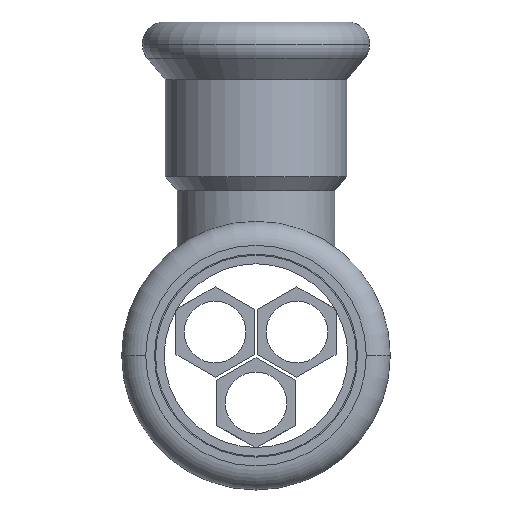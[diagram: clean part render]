
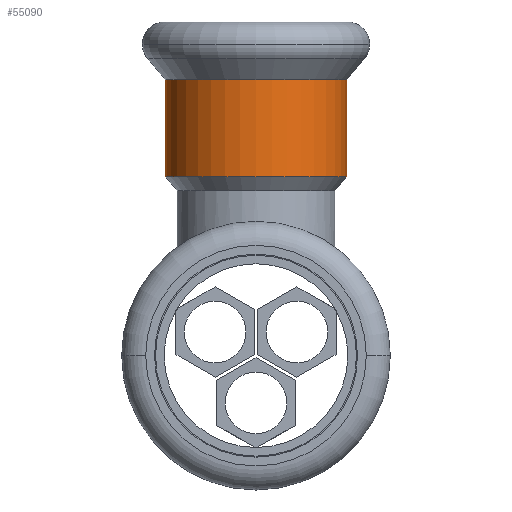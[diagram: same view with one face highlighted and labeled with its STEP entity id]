
A CAD part, front view. The second image highlights one B-rep face of the part: STEP entity #55090.
In plain terms, the highlighted cylindrical face has radius 12.65 mm (diameter 25.3 mm), a partial arc.
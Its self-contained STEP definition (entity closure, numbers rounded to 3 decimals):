
#1380=CARTESIAN_POINT('',(-306.641,56.893,0.));
#1390=VERTEX_POINT('',#1380);
#1570=CARTESIAN_POINT('',(-331.941,56.893,
0.));
#1580=VERTEX_POINT('',#1570);
#1610=CARTESIAN_POINT('',(-319.291,56.893,0.));
#1620=DIRECTION('',(0.,1.,0.));
#1630=DIRECTION('',(-1.,0.,0.));
#1640=AXIS2_PLACEMENT_3D('',#1610,#1620,#1630);
#1650=CIRCLE('',#1640,12.65);
#1710=CARTESIAN_POINT('',(-319.291,50.141,0.));
#1720=DIRECTION('',(0.,-1.,0.));
#1730=DIRECTION('',(-1.,0.,0.));
#1740=AXIS2_PLACEMENT_3D('',#1710,#1720,#1730);
#1750=CYLINDRICAL_SURFACE('',#1740,12.65);
#1760=CARTESIAN_POINT('',(-306.641,50.141,
0.));
#1770=DIRECTION('',(0.,-1.,0.));
#1780=VECTOR('',#1770,1.);
#1790=LINE('',#1760,#1780);
#1800=CARTESIAN_POINT('',(-306.641,43.401,
0.));
#1810=VERTEX_POINT('',#1800);
#1820=EDGE_CURVE('',#1390,#1810,#1790,.T.);
#1850=CARTESIAN_POINT('',(-331.941,50.141,0.));
#1860=DIRECTION('',(0.,-1.,0.));
#1870=VECTOR('',#1860,1.);
#1880=LINE('',#1850,#1870);
#1890=CARTESIAN_POINT('',(-331.941,43.401,0.));
#1900=VERTEX_POINT('',#1890);
#1910=EDGE_CURVE('',#1580,#1900,#1880,.T.);
#1930=CARTESIAN_POINT('',(-319.291,43.401,0.));
#1940=DIRECTION('',(0.,1.,0.));
#1950=DIRECTION('',(-1.,0.,0.));
#1960=AXIS2_PLACEMENT_3D('',#1930,#1940,#1950);
#1970=CIRCLE('',#1960,12.65);
#55010=EDGE_CURVE('',#1900,#1810,#1970,.T.);
#55020=ORIENTED_EDGE('',*,*,#55010,.T.);
#55030=ORIENTED_EDGE('',*,*,#1910,.T.);
#55040=EDGE_CURVE('',#1580,#1390,#1650,.T.);
#55050=ORIENTED_EDGE('',*,*,#55040,.F.);
#55060=ORIENTED_EDGE('',*,*,#1820,.F.);
#55070=EDGE_LOOP('',(#55060,#55050,#55030,#55020));
#55080=FACE_OUTER_BOUND('',#55070,.T.);
#55090=ADVANCED_FACE('',(#55080),#1750,.T.);
